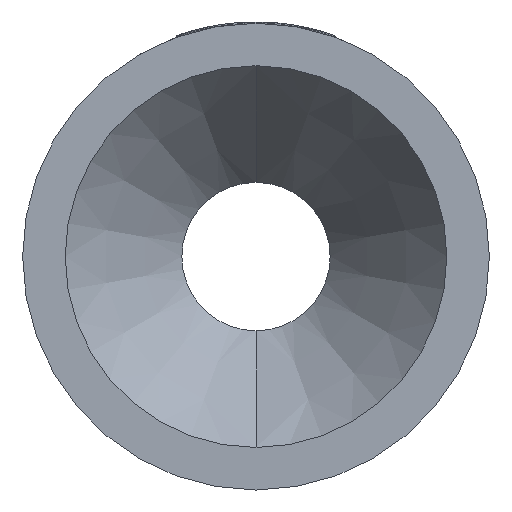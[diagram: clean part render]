
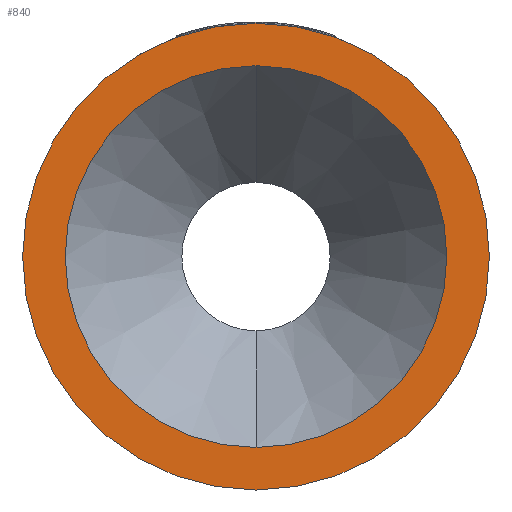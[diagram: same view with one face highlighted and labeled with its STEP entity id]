
A CAD part, left-side view. The second image highlights one B-rep face of the part: STEP entity #840.
In plain terms, the highlighted planar face has unit normal (-1, 0, 0).
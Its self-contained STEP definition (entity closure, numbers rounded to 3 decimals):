
#500 = VERTEX_POINT ( 'NONE', #674 ) ;
#528 = AXIS2_PLACEMENT_3D ( 'NONE', #2430, #2408, #2399 ) ;
#594 = ORIENTED_EDGE ( 'NONE', *, *, #920, .T. ) ;
#624 = VERTEX_POINT ( 'NONE', #2009 ) ;
#674 = CARTESIAN_POINT ( 'NONE',  ( 0., 0., -90. ) ) ;
#713 = EDGE_LOOP ( 'NONE', ( #3231, #3259 ) ) ;
#728 = CARTESIAN_POINT ( 'NONE',  ( 0., 0., -73.6 ) ) ;
#750 = CIRCLE ( 'NONE', #3299, 90. ) ;
#840 = ADVANCED_FACE ( 'NONE', ( #1322, #1883 ), #2296, .F. ) ;
#920 = EDGE_CURVE ( 'NONE', #500, #624, #750, .T. ) ;
#930 = DIRECTION ( 'NONE',  ( 0., 0., 1. ) ) ;
#935 = DIRECTION ( 'NONE',  ( -1., 0., 0. ) ) ;
#942 = CARTESIAN_POINT ( 'NONE',  ( 0., 0., 0. ) ) ;
#1232 = VERTEX_POINT ( 'NONE', #728 ) ;
#1322 = FACE_BOUND ( 'NONE', #713, .T. ) ;
#1465 = CIRCLE ( 'NONE', #2021, 73.6 ) ;
#1563 = EDGE_CURVE ( 'NONE', #1232, #2127, #2078, .T. ) ;
#1883 = FACE_OUTER_BOUND ( 'NONE', #1949, .T. ) ;
#1931 = EDGE_CURVE ( 'NONE', #624, #500, #3342, .T. ) ;
#1949 = EDGE_LOOP ( 'NONE', ( #3298, #594 ) ) ;
#1975 = DIRECTION ( 'NONE',  ( -1., 0., 0. ) ) ;
#2009 = CARTESIAN_POINT ( 'NONE',  ( 0., 0., 90. ) ) ;
#2021 = AXIS2_PLACEMENT_3D ( 'NONE', #2986, #2975, #2968 ) ;
#2078 = CIRCLE ( 'NONE', #528, 73.6 ) ;
#2085 = DIRECTION ( 'NONE',  ( 0., 0., 1. ) ) ;
#2097 = CARTESIAN_POINT ( 'NONE',  ( 0., 0., 0. ) ) ;
#2127 = VERTEX_POINT ( 'NONE', #2537 ) ;
#2222 = DIRECTION ( 'NONE',  ( 0., 0., -1. ) ) ;
#2230 = DIRECTION ( 'NONE',  ( 1., 0., 0. ) ) ;
#2234 = CARTESIAN_POINT ( 'NONE',  ( 0., 73.6, 0. ) ) ;
#2296 = PLANE ( 'NONE',  #3226 ) ;
#2399 = DIRECTION ( 'NONE',  ( 0., 0., 1. ) ) ;
#2408 = DIRECTION ( 'NONE',  ( -1., 0., 0. ) ) ;
#2430 = CARTESIAN_POINT ( 'NONE',  ( 0., 0., 0. ) ) ;
#2537 = CARTESIAN_POINT ( 'NONE',  ( 0., 0., 73.6 ) ) ;
#2637 = AXIS2_PLACEMENT_3D ( 'NONE', #2097, #1975, #2085 ) ;
#2968 = DIRECTION ( 'NONE',  ( 0., 0., 1. ) ) ;
#2975 = DIRECTION ( 'NONE',  ( -1., 0., 0. ) ) ;
#2986 = CARTESIAN_POINT ( 'NONE',  ( 0., 0., 0. ) ) ;
#3226 = AXIS2_PLACEMENT_3D ( 'NONE', #2234, #2230, #2222 ) ;
#3231 = ORIENTED_EDGE ( 'NONE', *, *, #3486, .F. ) ;
#3259 = ORIENTED_EDGE ( 'NONE', *, *, #1563, .F. ) ;
#3298 = ORIENTED_EDGE ( 'NONE', *, *, #1931, .T. ) ;
#3299 = AXIS2_PLACEMENT_3D ( 'NONE', #942, #935, #930 ) ;
#3342 = CIRCLE ( 'NONE', #2637, 90. ) ;
#3486 = EDGE_CURVE ( 'NONE', #2127, #1232, #1465, .T. ) ;
